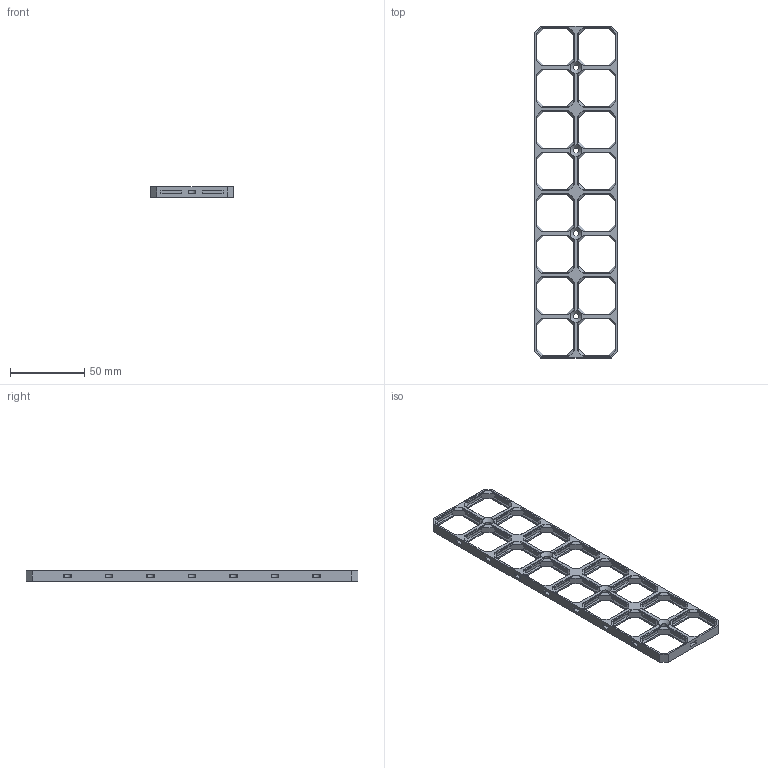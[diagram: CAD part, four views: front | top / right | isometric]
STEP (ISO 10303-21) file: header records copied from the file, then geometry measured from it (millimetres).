
FILE_DESCRIPTION(('FreeCAD Model'),'2;1');
FILE_NAME('Open CASCADE Shape Model','2025-07-11T15:48:57',(''),(''), 'Open CASCADE STEP processor 7.8','FreeCAD','Unknown');
FILE_SCHEMA(('AUTOMOTIVE_DESIGN { 1 0 10303 214 1 1 1 1 }'));
Length unit declared in the file: millimetre
Products named in the file (1): Chamfer
Bounding box: 56 x 224 x 6.8 mm (x, y, z)
Volume: 18011.3 mm3; surface area: 20667.5 mm2
Topology: 1 solids, 1 shells, 834 faces, 2220 edges, 1404 vertices
Faces by surface type: plane 714, cylinder 116, cone 4
Full cylindrical faces by diameter (mm): 3.6 x4
Entity records: 25430 total; most frequent: CARTESIAN_POINT 4459, ORIENTED_EDGE 4440, DIRECTION 4158, EDGE_CURVE 2220, LINE 1952, VECTOR 1952, VERTEX_POINT 1404, AXIS2_PLACEMENT_3D 1103
